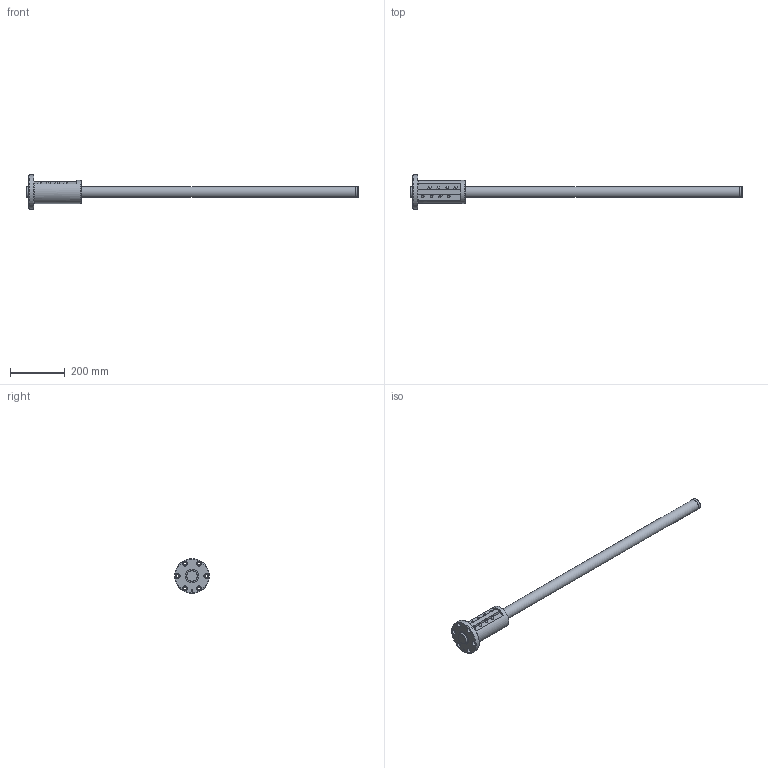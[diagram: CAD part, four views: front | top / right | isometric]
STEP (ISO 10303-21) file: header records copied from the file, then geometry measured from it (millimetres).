
FILE_DESCRIPTION( ( 'STEP AP203' ), ' ' );
FILE_NAME( 'p:/temp/worker_19/4028_1992/app_45_12018011815523310945993818fa3fd_000000_00_00_000000/format_0/BIF4012-10RRG0+1211LC0_10000.stp', '2018-01-18T14:52:34', ( '' ), ( '' ), ' ', 'PARTsolutions', ' ' );
FILE_SCHEMA( ( 'CONFIG_CONTROL_DESIGN' ) );
Length unit declared in the file: millimetre
Products named in the file (3): BIF4012-10RRG0+1211LC0_10000; _BIF 4012-10RR1000500 Shaft; _BIF 4012-10RR Nut
Assembly tree (2 placements, depth 2):
  BIF4012-10RRG0+1211LC0_10000
    _BIF 4012-10RR1000500 Shaft
    _BIF 4012-10RR Nut
Bounding box: 1211 x 126 x 126 mm (x, y, z)
Volume: 2371623.4 mm3; surface area: 263464.1 mm2
Topology: 2 solids, 2 shells, 98 faces, 218 edges, 144 vertices
Faces by surface type: cylinder 47, plane 35, cone 8, torus 8
Full cylindrical faces by diameter (mm): 4.917 x1, 6.2 x2, 8 x8, 11 x6, 17.5 x6, 39.5 x2, 40 x4, 49.2 x2, 84 x1, 126 x1
Entity records: 3288 total; most frequent: CARTESIAN_POINT 1095, DIRECTION 456, ORIENTED_EDGE 326, AXIS2_PLACEMENT_3D 208, EDGE_LOOP 191, EDGE_CURVE 163, VERTEX_POINT 137, FACE_OUTER_BOUND 131
